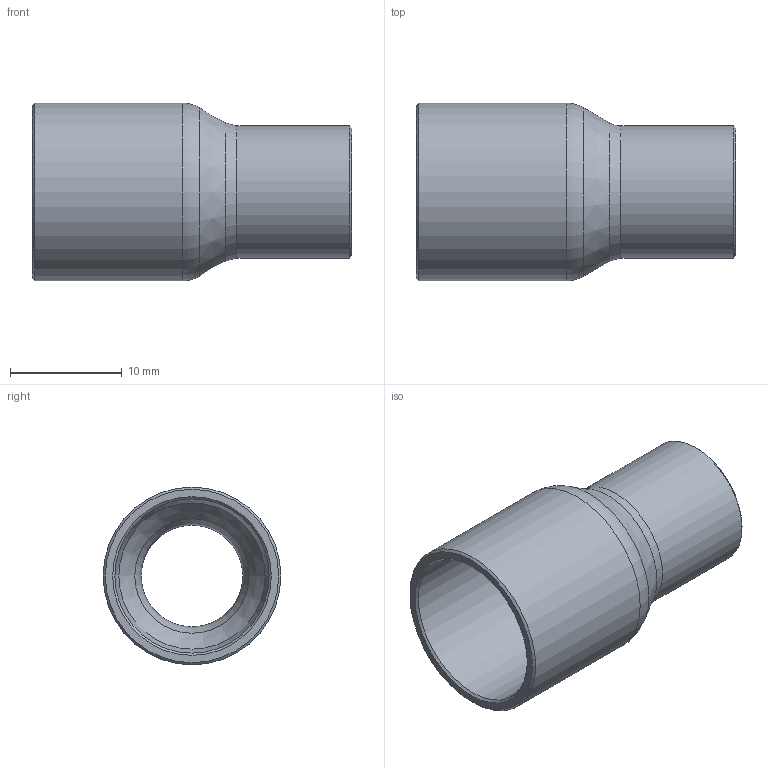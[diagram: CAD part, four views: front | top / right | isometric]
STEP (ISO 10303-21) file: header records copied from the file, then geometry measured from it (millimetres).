
FILE_DESCRIPTION((''),'2;1');
FILE_NAME('G:\SANHA-Ternat\Technik\Management\Bouwmaten + markeringen\z-maattekeningen 3D\29000s\292435838_3d.stp','2017-08-03T15:25:38',('vdvijverd'),(''),'Autodesk Inventor 2009','Autodesk Inventor 2009','');
FILE_SCHEMA(('AUTOMOTIVE_DESIGN { 1 0 10303 214 1 1 1 1 }'));
Length unit declared in the file: millimetre
Products named in the file (1): 292435838_3d
Bounding box: 28.5 x 15.88 x 15.88 mm (x, y, z)
Volume: 1283.8 mm3; surface area: 2433.4 mm2
Topology: 1 solids, 1 shells, 17 faces, 32 edges, 17 vertices
Faces by surface type: cone 6, cylinder 4, bspline 3, plane 2, torus 2
Full cylindrical faces by diameter (mm): 9.645 x1, 11.8 x1, 13.775 x1, 15.875 x1
Entity records: 494 total; most frequent: CARTESIAN_POINT 184, DIRECTION 64, ORIENTED_EDGE 34, EDGE_LOOP 34, AXIS2_PLACEMENT_3D 32, VERTEX_POINT 17, CIRCLE 17, EDGE_CURVE 17
